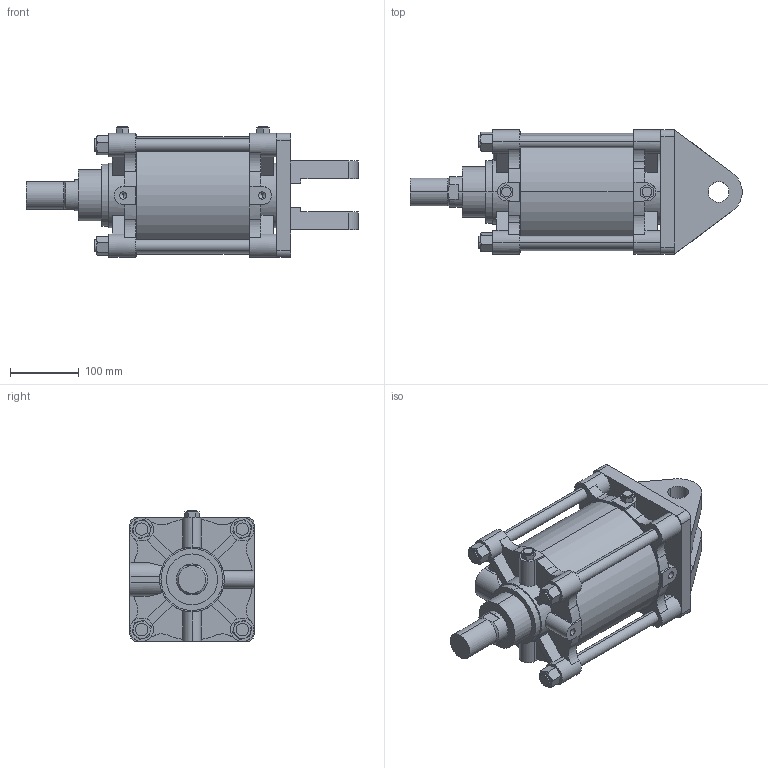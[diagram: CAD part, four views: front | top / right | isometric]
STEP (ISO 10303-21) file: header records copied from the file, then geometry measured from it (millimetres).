
FILE_DESCRIPTION (( 'STEP AP203' ), '1' );
FILE_NAME ('A##2-160#-100-W.STEP', '2016-03-31T06:57:01', ( '' ), ( '' ), 'SwSTEP 2.0', 'SolidWorks 2014', '' );
FILE_SCHEMA (( 'CONFIG_CONTROL_DESIGN' ));
Length unit declared in the file: millimetre
Products named in the file (7): A160-100; A160-W; A160-B; A160-A; A##2-160#-100-W
Assembly tree (12 placements, depth 2):
  A##2-160#-100-W
    A160-B
    A160-100
    A160-A
    (unnamed)  x4
    (unnamed)  x4
    A160-W
Bounding box: 481.88 x 180 x 190 mm (x, y, z)
Volume: 7056209.7 mm3; surface area: 584453.4 mm2
Topology: 12 solids, 14 shells, 363 faces, 932 edges, 598 vertices
Faces by surface type: plane 187, cylinder 136, torus 24, cone 16
Entity records: 10855 total; most frequent: CARTESIAN_POINT 2212, DIRECTION 1710, ORIENTED_EDGE 1588, EDGE_CURVE 794, AXIS2_PLACEMENT_3D 652, VERTEX_POINT 520, LINE 406, VECTOR 406
